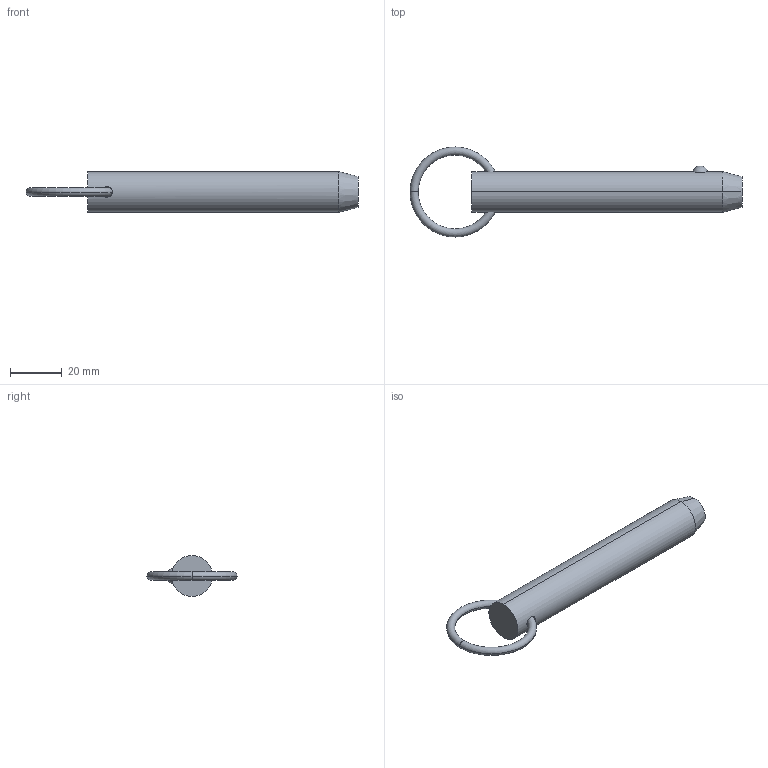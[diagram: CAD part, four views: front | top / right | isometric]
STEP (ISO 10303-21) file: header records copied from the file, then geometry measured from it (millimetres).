
FILE_DESCRIPTION (( 'STEP AP203' ), '1' );
FILE_NAME ('33010.W6230.step', '2024-11-01T10:41:50', ( '' ), ( '' ), 'SwSTEP 2.0', 'SolidWorks 2019', '' );
FILE_SCHEMA (( 'CONFIG_CONTROL_DESIGN' ));
Length unit declared in the file: millimetre
Products named in the file (3): Part2_33010.W6230; Part1_33010.W6230; 33010.W6230
Assembly tree (2 placements, depth 2):
  33010.W6230
    Part1_33010.W6230
    Part2_33010.W6230
Bounding box: 128.71 x 34.93 x 15.88 mm (x, y, z)
Volume: 21038 mm3; surface area: 6690.6 mm2
Topology: 2 solids, 2 shells, 16 faces, 31 edges, 18 vertices
Faces by surface type: torus 8, sphere 2, cone 2, cylinder 2, plane 2
Entity records: 889 total; most frequent: CARTESIAN_POINT 246, DIRECTION 88, ORIENTED_EDGE 62, AXIS2_PLACEMENT_3D 42, EDGE_CURVE 31, PERSON_AND_ORGANIZATION 26, CIRCLE 21, CALENDAR_DATE 19
